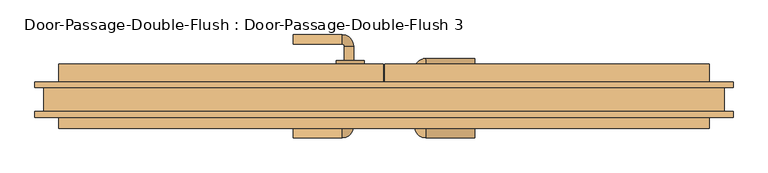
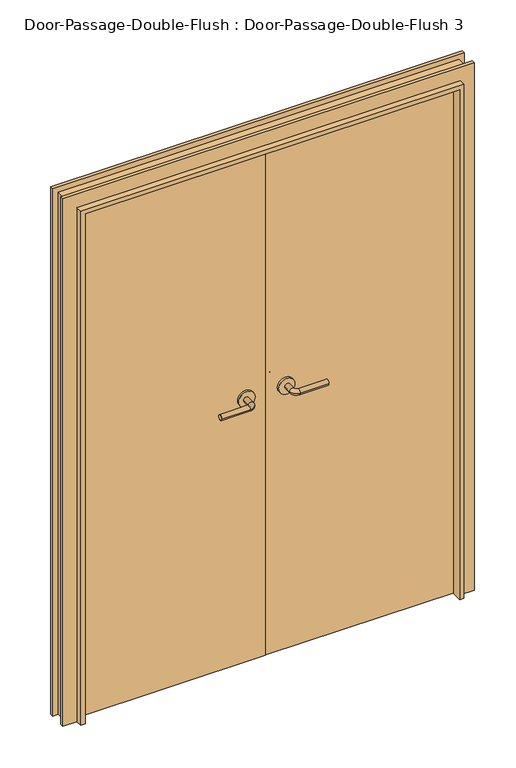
"""IFC4 building model written with IfcOpenShell, lengths in millimetres: door geometry, Door-Passage-Double-Flush : Door-Passage-Double-Flush 3."""

from ifc_helpers import new_model, si_unit, point, frame, frame_2d, origin, origin_with_axes, place, context, project, spatial, polyline, circle_curve, ellipse_curve, trimmed, segment, composite_curve, outline, extrude, faceted_brep, source, transform, mapped, element, save
from ifc_brep_helpers import plane_surface, cylinder_surface, revolved_surface, advanced_brep


def door_passage_double_flush_door_passage_double_flush_3_89525f2c(model_context):
    return source(origin(), model_context, "Body", "SolidModel", [
        advanced_brep(
        [(-65.009375, -20.7, 1016.0), (-85.009375, -20.7, 1016.0), (-65.009375, -50.7, 1016.0), (-85.009375, -50.7, 1016.0), (-90.009375, -55.7, 1016.0), (-90.009375, -75.7, 1016.0), (-195.009375, -75.7, 1016.0), (-195.009375, -55.7, 1016.0)],
        [
            (0, 1, circle_curve(frame((-75.009375, -20.7, 1016.0), z_axis=(0.0, 1.0, 0.0), x_axis=(-1.0, 0.0, 0.0)), 10.0)),
            (1, 0, circle_curve(frame((-75.009375, -20.7, 1016.0), z_axis=(0.0, 1.0, 0.0), x_axis=(-1.0, 0.0, 0.0)), 10.0)),
            (0, 2),
            (2, 3, circle_curve(frame((-75.009375, -50.7, 1016.0), z_axis=(0.0, 1.0, 0.0), x_axis=(-1.0, 0.0, 0.0)), 10.0)),
            (3, 1),
            (3, 2, circle_curve(frame((-75.009375, -50.7, 1016.0), z_axis=(0.0, 1.0, 0.0), x_axis=(-1.0, 0.0, 0.0)), 10.0)),
            (4, 3, circle_curve(frame((-90.009375, -50.7, 1016.0), z_axis=(0.0, 0.0, 1.0), x_axis=(1.0, 0.0, 0.0)), 5.0)),
            (2, 5, circle_curve(frame((-90.009375, -50.7, 1016.0), z_axis=(0.0, 0.0, -1.0), x_axis=(1.0, 0.0, 0.0)), 25.0)),
            (5, 4, circle_curve(frame((-90.009375, -65.7, 1016.0), z_axis=(1.0, 0.0, 0.0), x_axis=(0.0, 1.0, 0.0)), 10.0)),
            (4, 5, circle_curve(frame((-90.009375, -65.7, 1016.0), z_axis=(1.0, 0.0, 0.0), x_axis=(0.0, 1.0, 0.0)), 10.0)),
            (6, 7, circle_curve(frame((-195.009375, -65.7, 1016.0), z_axis=(-1.0, 0.0, 0.0), x_axis=(0.0, 1.0, 0.0)), 10.0)),
            (7, 6, circle_curve(frame((-195.009375, -65.7, 1016.0), z_axis=(-1.0, 0.0, 0.0), x_axis=(0.0, 1.0, 0.0)), 10.0)),
            (5, 6),
            (7, 4),
        ],
        [
            plane_surface(frame((-75.009375, -20.7, 1016.0), z_axis=(0.0, 1.0, 0.0), x_axis=(0.0, 0.0, 1.0))),
            cylinder_surface(frame((-75.009375, -20.7, 1016.0), z_axis=(0.0, 1.0, 0.0), x_axis=(-1.0, 0.0, 0.0)), 10.0),
            revolved_surface(trimmed(ellipse_curve(frame((-75.009375, -50.7, 1016.0), z_axis=(0.0, 1.0, 0.0), x_axis=(-1.0, 0.0, 0.0)), 10.0, 10.0), [point((-65.009375, -50.7, 1016.0))], [point((-85.009375, -50.7, 1016.0))], True, "CARTESIAN"), (-90.009375, -50.7, 1016.0), (0.0, 0.0, -1.0)),
            revolved_surface(trimmed(ellipse_curve(frame((-75.009375, -50.7, 1016.0), z_axis=(0.0, 1.0, 0.0), x_axis=(-1.0, 0.0, 0.0)), 10.0, 10.0), [point((-85.009375, -50.7, 1016.0))], [point((-65.009375, -50.7, 1016.0))], True, "CARTESIAN"), (-90.009375, -50.7, 1016.0), (0.0, 0.0, -1.0)),
            plane_surface(frame((-195.009375, -65.7, 1016.0), z_axis=(-1.0, 0.0, 0.0), x_axis=(0.0, 0.0, 1.0))),
            cylinder_surface(frame((-90.009375, -65.7, 1016.0), z_axis=(1.0, 0.0, 0.0), x_axis=(0.0, 1.0, 0.0)), 10.0),
        ],
        [
            (0, [[1, 2]]),
            (1, [[-1, 3, 4, 5]]),
            (1, [[-2, -5, 6, -3]]),
            (2, [[7, -4, 8, 9]]),
            (3, [[-8, -6, -7, 10]]),
            (4, [[11, 12]]),
            (5, [[-9, 13, -12, 14]]),
            (5, [[-10, -14, -11, -13]]),
        ],
    ),
        extrude(outline(composite_curve([segment(trimmed(circle_curve(frame_2d((1016.0, -72.509375)), 30.0), [point((1016.0, -42.509375))], [point((1016.0, -102.509375))], False, "CARTESIAN"), True, "CONTINUOUS"), segment(trimmed(circle_curve(frame_2d((1016.0, -72.509375)), 30.0), [point((1016.0, -102.509375))], [point((1016.0, -42.509375))], False, "CARTESIAN"), True, "CONTINUOUS")], self_intersect=False)), frame((0.0, -20.7, 0.0), z_axis=(0.0, 1.0, 0.0), x_axis=(0.0, 0.0, 1.0)), (0.0, 0.0, 1.0), 8.0),
        advanced_brep(
        [(-65.009375, 90.55, 1016.0), (-85.009375, 90.55, 1016.0), (-85.009375, 120.55, 1016.0), (-65.009375, 120.55, 1016.0), (-90.009375, 125.55, 1016.0), (-90.009375, 145.55, 1016.0), (-195.009375, 145.55, 1016.0), (-195.009375, 125.55, 1016.0)],
        [
            (0, 1, circle_curve(frame((-75.009375, 90.55, 1016.0), z_axis=(0.0, -1.0, 0.0), x_axis=(-1.0, 0.0, 0.0)), 10.0)),
            (1, 0, circle_curve(frame((-75.009375, 90.55, 1016.0), z_axis=(0.0, -1.0, 0.0), x_axis=(-1.0, 0.0, 0.0)), 10.0)),
            (1, 2),
            (2, 3, circle_curve(frame((-75.009375, 120.55, 1016.0), z_axis=(0.0, -1.0, 0.0), x_axis=(-1.0, 0.0, 0.0)), 10.0)),
            (3, 0),
            (3, 2, circle_curve(frame((-75.009375, 120.55, 1016.0), z_axis=(0.0, -1.0, 0.0), x_axis=(-1.0, 0.0, 0.0)), 10.0)),
            (4, 5, circle_curve(frame((-90.009375, 135.55, 1016.0), z_axis=(1.0, 0.0, 0.0), x_axis=(0.0, -1.0, 0.0)), 10.0)),
            (5, 3, circle_curve(frame((-90.009375, 120.55, 1016.0), z_axis=(0.0, 0.0, -1.0), x_axis=(1.0, 0.0, 0.0)), 25.0)),
            (2, 4, circle_curve(frame((-90.009375, 120.55, 1016.0), z_axis=(0.0, 0.0, 1.0), x_axis=(1.0, 0.0, 0.0)), 5.0)),
            (5, 4, circle_curve(frame((-90.009375, 135.55, 1016.0), z_axis=(1.0, 0.0, 0.0), x_axis=(0.0, -1.0, 0.0)), 10.0)),
            (6, 7, circle_curve(frame((-195.009375, 135.55, 1016.0), z_axis=(-1.0, 0.0, 0.0), x_axis=(0.0, -1.0, 0.0)), 10.0)),
            (7, 6, circle_curve(frame((-195.009375, 135.55, 1016.0), z_axis=(-1.0, 0.0, 0.0), x_axis=(0.0, -1.0, 0.0)), 10.0)),
            (4, 7),
            (6, 5),
        ],
        [
            plane_surface(frame((-75.009375, 90.55, 1016.0), z_axis=(0.0, -1.0, 0.0), x_axis=(0.0, 0.0, 1.0))),
            cylinder_surface(frame((-75.009375, 90.55, 1016.0), z_axis=(0.0, -1.0, 0.0), x_axis=(-1.0, 0.0, 0.0)), 10.0),
            revolved_surface(trimmed(ellipse_curve(frame((-75.009375, 120.55, 1016.0), z_axis=(0.0, 1.0, 0.0), x_axis=(-1.0, 0.0, 0.0)), 10.0, 10.0), [point((-65.009375, 120.55, 1016.0))], [point((-85.009375, 120.55, 1016.0))], True, "CARTESIAN"), (-90.009375, 120.55, 1016.0), (0.0, 0.0, -1.0)),
            revolved_surface(trimmed(ellipse_curve(frame((-75.009375, 120.55, 1016.0), z_axis=(0.0, 1.0, 0.0), x_axis=(-1.0, 0.0, 0.0)), 10.0, 10.0), [point((-85.009375, 120.55, 1016.0))], [point((-65.009375, 120.55, 1016.0))], True, "CARTESIAN"), (-90.009375, 120.55, 1016.0), (0.0, 0.0, -1.0)),
            plane_surface(frame((-195.009375, 135.55, 1016.0), z_axis=(-1.0, 0.0, 0.0), x_axis=(0.0, 0.0, 1.0))),
            cylinder_surface(frame((-90.009375, 135.55, 1016.0), z_axis=(1.0, 0.0, 0.0), x_axis=(0.0, -1.0, 0.0)), 10.0),
        ],
        [
            (0, [[1, 2]]),
            (1, [[3, 4, 5, -2]]),
            (1, [[-5, 6, -3, -1]]),
            (2, [[7, 8, -4, 9]]),
            (3, [[10, -9, -6, -8]]),
            (4, [[11, 12]]),
            (5, [[13, -11, 14, -7]]),
            (5, [[-14, -12, -13, -10]]),
        ],
    ),
        extrude(outline(composite_curve([segment(trimmed(circle_curve(frame_2d((1016.0, -72.509375)), 30.0), [point((1016.0, -42.509375))], [point((1016.0, -102.509375))], False, "CARTESIAN"), True, "CONTINUOUS"), segment(trimmed(circle_curve(frame_2d((1016.0, -72.509375)), 30.0), [point((1016.0, -102.509375))], [point((1016.0, -42.509375))], False, "CARTESIAN"), True, "CONTINUOUS")], self_intersect=False)), frame((0.0, 82.55, 0.0), z_axis=(0.0, 1.0, 0.0), x_axis=(0.0, 0.0, 1.0)), (0.0, 0.0, 1.0), 8.0),
        advanced_brep(
        [(65.009375, -20.7, 1016.0), (85.009375, -20.7, 1016.0), (85.009375, -50.7, 1016.0), (65.009375, -50.7, 1016.0), (90.009375, -55.7, 1016.0), (90.009375, -75.7, 1016.0), (195.009375, -75.7, 1016.0), (195.009375, -55.7, 1016.0)],
        [
            (0, 1, circle_curve(frame((75.009375, -20.7, 1016.0), z_axis=(0.0, 1.0, 0.0), x_axis=(1.0, 0.0, 0.0)), 10.0)),
            (1, 0, circle_curve(frame((75.009375, -20.7, 1016.0), z_axis=(0.0, 1.0, 0.0), x_axis=(1.0, 0.0, 0.0)), 10.0)),
            (1, 2),
            (2, 3, circle_curve(frame((75.009375, -50.7, 1016.0), z_axis=(0.0, 1.0, 0.0), x_axis=(1.0, 0.0, 0.0)), 10.0)),
            (3, 0),
            (3, 2, circle_curve(frame((75.009375, -50.7, 1016.0), z_axis=(0.0, 1.0, 0.0), x_axis=(1.0, 0.0, 0.0)), 10.0)),
            (4, 5, circle_curve(frame((90.009375, -65.7, 1016.0), z_axis=(-1.0, 0.0, 0.0), x_axis=(0.0, 1.0, 0.0)), 10.0)),
            (5, 3, circle_curve(frame((90.009375, -50.7, 1016.0), z_axis=(0.0, 0.0, -1.0), x_axis=(-1.0, 0.0, 0.0)), 25.0)),
            (2, 4, circle_curve(frame((90.009375, -50.7, 1016.0), z_axis=(0.0, 0.0, 1.0), x_axis=(-1.0, 0.0, 0.0)), 5.0)),
            (5, 4, circle_curve(frame((90.009375, -65.7, 1016.0), z_axis=(-1.0, 0.0, 0.0), x_axis=(0.0, 1.0, 0.0)), 10.0)),
            (6, 7, circle_curve(frame((195.009375, -65.7, 1016.0), z_axis=(1.0, 0.0, 0.0), x_axis=(0.0, 1.0, 0.0)), 10.0)),
            (7, 6, circle_curve(frame((195.009375, -65.7, 1016.0), z_axis=(1.0, 0.0, 0.0), x_axis=(0.0, 1.0, 0.0)), 10.0)),
            (4, 7),
            (6, 5),
        ],
        [
            plane_surface(frame((75.009375, -20.7, 1016.0), z_axis=(0.0, 1.0, 0.0), x_axis=(0.0, 0.0, 1.0))),
            cylinder_surface(frame((75.009375, -20.7, 1016.0), z_axis=(0.0, 1.0, 0.0), x_axis=(1.0, 0.0, 0.0)), 10.0),
            revolved_surface(trimmed(ellipse_curve(frame((75.009375, -50.7, 1016.0), z_axis=(0.0, -1.0, 0.0), x_axis=(1.0, 0.0, 0.0)), 10.0, 10.0), [point((65.009375, -50.7, 1016.0))], [point((85.009375, -50.7, 1016.0))], True, "CARTESIAN"), (90.009375, -50.7, 1016.0), (0.0, 0.0, -1.0)),
            revolved_surface(trimmed(ellipse_curve(frame((75.009375, -50.7, 1016.0), z_axis=(0.0, -1.0, 0.0), x_axis=(1.0, 0.0, 0.0)), 10.0, 10.0), [point((85.009375, -50.7, 1016.0))], [point((65.009375, -50.7, 1016.0))], True, "CARTESIAN"), (90.009375, -50.7, 1016.0), (0.0, 0.0, -1.0)),
            plane_surface(frame((195.009375, -65.7, 1016.0), z_axis=(1.0, 0.0, 0.0), x_axis=(0.0, 0.0, 1.0))),
            cylinder_surface(frame((90.009375, -65.7, 1016.0), z_axis=(-1.0, 0.0, 0.0), x_axis=(0.0, 1.0, 0.0)), 10.0),
        ],
        [
            (0, [[1, 2]]),
            (1, [[3, 4, 5, -2]]),
            (1, [[-5, 6, -3, -1]]),
            (2, [[7, 8, -4, 9]]),
            (3, [[10, -9, -6, -8]]),
            (4, [[11, 12]]),
            (5, [[13, -11, 14, -7]]),
            (5, [[-14, -12, -13, -10]]),
        ],
    ),
        extrude(outline(composite_curve([segment(trimmed(circle_curve(frame_2d((1016.0, 72.509375)), 30.0), [point((1016.0, 42.509375))], [point((1016.0, 102.509375))], False, "CARTESIAN"), True, "CONTINUOUS"), segment(trimmed(circle_curve(frame_2d((1016.0, 72.509375)), 30.0), [point((1016.0, 102.509375))], [point((1016.0, 42.509375))], False, "CARTESIAN"), True, "CONTINUOUS")], self_intersect=False)), frame((0.0, -20.7, 0.0), z_axis=(0.0, 1.0, 0.0), x_axis=(0.0, 0.0, 1.0)), (0.0, 0.0, 1.0), 8.0),
        advanced_brep(
        [(65.009375, 39.75, 1016.0), (85.009375, 39.75, 1016.0), (65.009375, 69.75, 1016.0), (85.009375, 69.75, 1016.0), (90.009375, 74.75, 1016.0), (90.009375, 94.75, 1016.0), (195.009375, 94.75, 1016.0), (195.009375, 74.75, 1016.0)],
        [
            (0, 1, circle_curve(frame((75.009375, 39.75, 1016.0), z_axis=(0.0, -1.0, 0.0), x_axis=(1.0, 0.0, 0.0)), 10.0)),
            (1, 0, circle_curve(frame((75.009375, 39.75, 1016.0), z_axis=(0.0, -1.0, 0.0), x_axis=(1.0, 0.0, 0.0)), 10.0)),
            (0, 2),
            (2, 3, circle_curve(frame((75.009375, 69.75, 1016.0), z_axis=(0.0, -1.0, 0.0), x_axis=(1.0, 0.0, 0.0)), 10.0)),
            (3, 1),
            (3, 2, circle_curve(frame((75.009375, 69.75, 1016.0), z_axis=(0.0, -1.0, 0.0), x_axis=(1.0, 0.0, 0.0)), 10.0)),
            (4, 3, circle_curve(frame((90.009375, 69.75, 1016.0), z_axis=(0.0, 0.0, 1.0), x_axis=(-1.0, 0.0, 0.0)), 5.0)),
            (2, 5, circle_curve(frame((90.009375, 69.75, 1016.0), z_axis=(0.0, 0.0, -1.0), x_axis=(-1.0, 0.0, 0.0)), 25.0)),
            (5, 4, circle_curve(frame((90.009375, 84.75, 1016.0), z_axis=(-1.0, 0.0, 0.0), x_axis=(0.0, -1.0, 0.0)), 10.0)),
            (4, 5, circle_curve(frame((90.009375, 84.75, 1016.0), z_axis=(-1.0, 0.0, 0.0), x_axis=(0.0, -1.0, 0.0)), 10.0)),
            (6, 7, circle_curve(frame((195.009375, 84.75, 1016.0), z_axis=(1.0, 0.0, 0.0), x_axis=(0.0, -1.0, 0.0)), 10.0)),
            (7, 6, circle_curve(frame((195.009375, 84.75, 1016.0), z_axis=(1.0, 0.0, 0.0), x_axis=(0.0, -1.0, 0.0)), 10.0)),
            (5, 6),
            (7, 4),
        ],
        [
            plane_surface(frame((75.009375, 39.75, 1016.0), z_axis=(0.0, -1.0, 0.0), x_axis=(0.0, 0.0, 1.0))),
            cylinder_surface(frame((75.009375, 39.75, 1016.0), z_axis=(0.0, -1.0, 0.0), x_axis=(1.0, 0.0, 0.0)), 10.0),
            revolved_surface(trimmed(ellipse_curve(frame((75.009375, 69.75, 1016.0), z_axis=(0.0, -1.0, 0.0), x_axis=(1.0, 0.0, 0.0)), 10.0, 10.0), [point((65.009375, 69.75, 1016.0))], [point((85.009375, 69.75, 1016.0))], True, "CARTESIAN"), (90.009375, 69.75, 1016.0), (0.0, 0.0, -1.0)),
            revolved_surface(trimmed(ellipse_curve(frame((75.009375, 69.75, 1016.0), z_axis=(0.0, -1.0, 0.0), x_axis=(1.0, 0.0, 0.0)), 10.0, 10.0), [point((85.009375, 69.75, 1016.0))], [point((65.009375, 69.75, 1016.0))], True, "CARTESIAN"), (90.009375, 69.75, 1016.0), (0.0, 0.0, -1.0)),
            plane_surface(frame((195.009375, 84.75, 1016.0), z_axis=(1.0, 0.0, 0.0), x_axis=(0.0, 0.0, 1.0))),
            cylinder_surface(frame((90.009375, 84.75, 1016.0), z_axis=(-1.0, 0.0, 0.0), x_axis=(0.0, -1.0, 0.0)), 10.0),
        ],
        [
            (0, [[1, 2]]),
            (1, [[-1, 3, 4, 5]]),
            (1, [[-2, -5, 6, -3]]),
            (2, [[7, -4, 8, 9]]),
            (3, [[-8, -6, -7, 10]]),
            (4, [[11, 12]]),
            (5, [[-9, 13, -12, 14]]),
            (5, [[-10, -14, -11, -13]]),
        ],
    ),
        extrude(outline(composite_curve([segment(trimmed(circle_curve(frame_2d((1016.0, 72.509375)), 30.0), [point((1016.0, 42.509375))], [point((1016.0, 102.509375))], False, "CARTESIAN"), True, "CONTINUOUS"), segment(trimmed(circle_curve(frame_2d((1016.0, 72.509375)), 30.0), [point((1016.0, 102.509375))], [point((1016.0, 42.509375))], False, "CARTESIAN"), True, "CONTINUOUS")], self_intersect=False)), frame((0.0, 31.75, 0.0), z_axis=(0.0, 1.0, 0.0), x_axis=(0.0, 0.0, 1.0)), (0.0, 0.0, 1.0), 8.0),
        faceted_brep([(698.5, 44.45, 0.0), (749.3, 44.45, 0.0), (749.3, 31.75, 0.0), (730.25, 31.75, 0.0), (730.25, -19.05, 0.0), (749.3, -19.05, 0.0), (749.3, -31.75, 0.0), (698.5, -31.75, 0.0), (698.5, -55.5625, 0.0), (682.625, -55.5625, 0.0), (682.625, -17.4625, 0.0), (698.5, -17.4625, 0.0), (698.5, 44.45, 1981.2), (-698.5, 44.45, 1981.2), (-698.5, 44.45, 0.0), (-749.3, 44.45, 0.0), (-749.3, 44.45, 2032.0), (749.3, 44.45, 2032.0), (749.3, 31.75, 2032.0), (-749.3, 31.75, 2032.0), (-749.3, 31.75, 0.0), (-730.25, 31.75, 0.0), (-730.25, 31.75, 2012.95), (730.25, 31.75, 2012.95), (730.25, -19.05, 2012.95), (-730.25, -19.05, 2012.95), (-730.25, -19.05, 0.0), (-749.3, -19.05, 0.0), (-749.3, -19.05, 2032.0), (749.3, -19.05, 2032.0), (749.3, -31.75, 2032.0), (-749.3, -31.75, 2032.0), (-749.3, -31.75, 0.0), (-698.5, -31.75, 0.0), (-698.5, -31.75, 1981.2), (698.5, -31.75, 1981.2), (698.5, -55.5625, 1981.2), (-698.5, -55.5625, 1981.2), (-698.5, -55.5625, 0.0), (-682.625, -55.5625, 0.0), (-682.625, -55.5625, 1965.325), (682.625, -55.5625, 1965.325), (682.625, -17.4625, 1965.325), (-682.625, -17.4625, 1965.325), (-682.625, -17.4625, 0.0), (-698.5, -17.4625, 0.0), (-698.5, -17.4625, 1981.2), (698.5, -17.4625, 1981.2)], [[[0, 1, 2, 3, 4, 5, 6, 7, 8, 9, 10, 11]], [[1, 0, 12, 13, 14, 15, 16, 17]], [[2, 1, 17, 18]], [[3, 2, 18, 19, 20, 21, 22, 23]], [[4, 3, 23, 24]], [[5, 4, 24, 25, 26, 27, 28, 29]], [[6, 5, 29, 30]], [[7, 6, 30, 31, 32, 33, 34, 35]], [[8, 7, 35, 36]], [[9, 8, 36, 37, 38, 39, 40, 41]], [[10, 9, 41, 42]], [[11, 10, 42, 43, 44, 45, 46, 47]], [[0, 11, 47, 12]], [[18, 17, 16, 19]], [[24, 23, 22, 25]], [[30, 29, 28, 31]], [[36, 35, 34, 37]], [[42, 41, 40, 43]], [[12, 47, 46, 13]], [[14, 45, 44, 39, 38, 33, 32, 27, 26, 21, 20, 15]], [[19, 16, 15, 20]], [[25, 22, 21, 26]], [[31, 28, 27, 32]], [[37, 34, 33, 38]], [[43, 40, 39, 44]], [[13, 46, 45, 14]]]),
        extrude(outline(polyline([(698.5, -12.7), (1.5875, -12.7), (1.5875, 82.55), (698.5, 82.55), (698.5, -12.7)])), origin_with_axes(), (0.0, 0.0, 1.0), 1981.2),
        extrude(outline(polyline([(-1.5875, -12.7), (-698.5, -12.7), (-698.5, 82.55), (-1.5875, 82.55), (-1.5875, -12.7)])), origin_with_axes(), (0.0, 0.0, 1.0), 1981.2),
    ])


if __name__ == "__main__":
    model = new_model("IFC4")
    model_context = context("Model", 3, world=origin())
    ifc_project = project(units=[si_unit("LENGTHUNIT", "METRE", prefix="MILLI")], contexts=[model_context])
    site = spatial("IfcSite", under=ifc_project)
    building = spatial("IfcBuilding", under=site)
    placement = place(None, origin())
    door_passage_double_flush_door_passage_double_flush_3_shape = door_passage_double_flush_door_passage_double_flush_3_89525f2c(model_context)
    element("IfcDoor", 1, ObjectType="Door-Passage-Double-Flush : Door-Passage-Double-Flush 3", at=placement, inside=building, context=model_context, shape_type="MappedRepresentation", body=[
        mapped(door_passage_double_flush_door_passage_double_flush_3_shape, transform((0.0, 0.0, 0.0), x_axis=(1.0, 0.0, 0.0), y_axis=(0.0, 1.0, 0.0), z_axis=(0.0, 0.0, 1.0))),
    ])
    save(model, "model.ifc")
